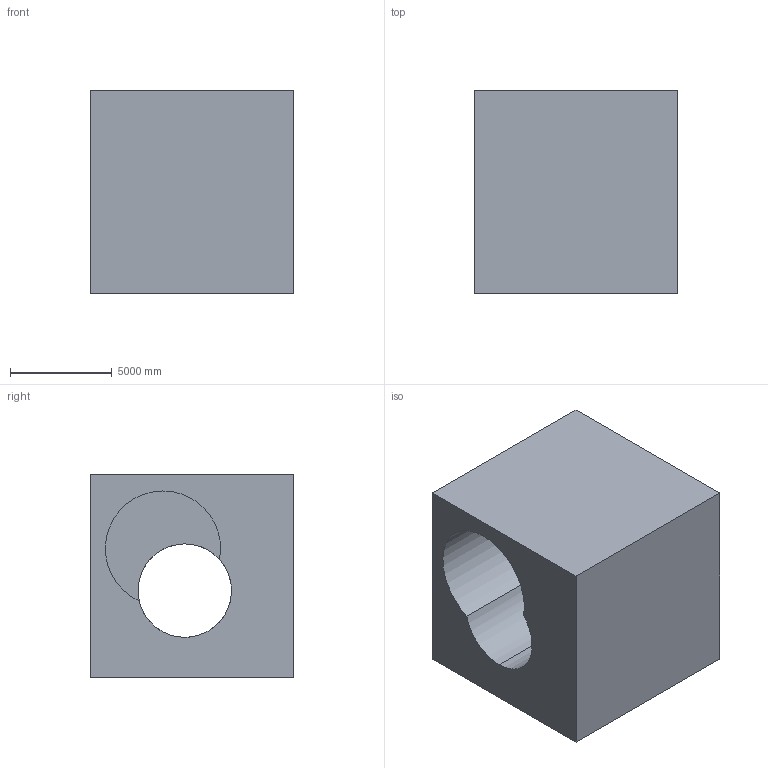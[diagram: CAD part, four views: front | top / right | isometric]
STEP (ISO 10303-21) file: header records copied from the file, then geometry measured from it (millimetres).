
FILE_DESCRIPTION (( 'STEP AP203' ), '1' );
FILE_NAME ('1007.STEP', '2022-08-18T12:23:59', ( 'user' ), ( '' ), 'SwSTEP 2.0', 'SolidWorks 2021', '' );
FILE_SCHEMA (( 'CONFIG_CONTROL_DESIGN' ));
Length unit declared in the file: centimetre
Products named in the file (1): 1007
Bounding box: 10000 x 10000 x 10000 mm (x, y, z)
Volume: 694247387584.2 mm3; surface area: 768401662.3 mm2
Topology: 1 solids, 1 shells, 11 faces, 27 edges, 18 vertices
Faces by surface type: plane 7, cylinder 4
Entity records: 412 total; most frequent: DIRECTION 61, CARTESIAN_POINT 57, ORIENTED_EDGE 54, EDGE_CURVE 27, AXIS2_PLACEMENT_3D 22, VERTEX_POINT 18, VECTOR 17, LINE 17
